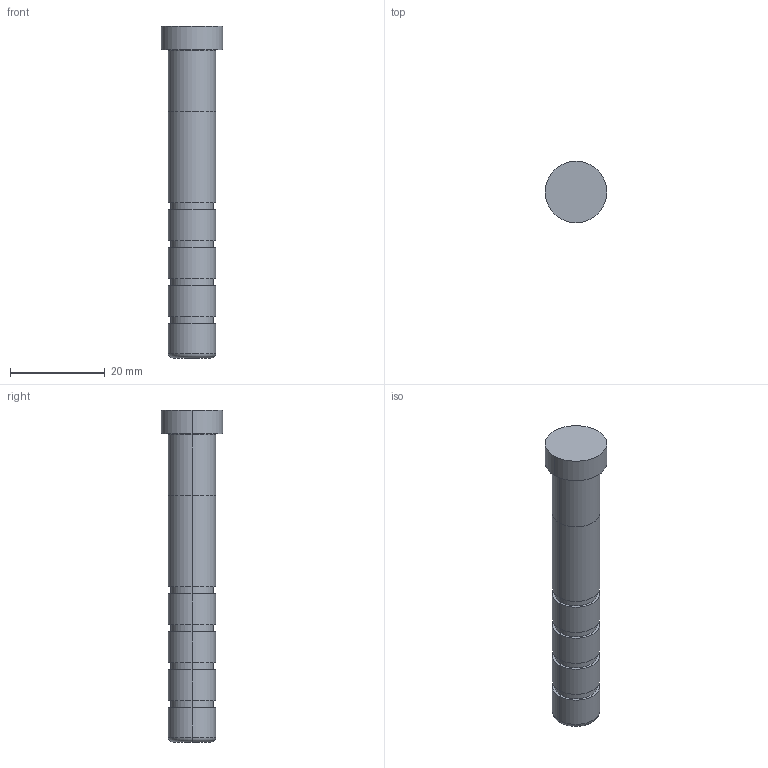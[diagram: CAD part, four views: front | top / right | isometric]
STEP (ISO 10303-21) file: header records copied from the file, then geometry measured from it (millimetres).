
FILE_DESCRIPTION(/* description */ (''),/* implementation_level */ '2;1');
FILE_NAME(/* name */ '3d_sgoh10-70_05219_r00.stp',/* time_stamp */ '2011-01-10T14:11:10+09:00',/* author */ ('MISUMI'),/* organization */ (''),/* preprocessor_version */ 'ST-DEVELOPER v11',/* originating_system */ 'UGS - NX 5.0',/* authorisation */ '');
FILE_SCHEMA (('CONFIG_CONTROL_DESIGN'));
Length unit declared in the file: millimetre
Products named in the file (1): 3d_sgoh10-70_05219_r00
Bounding box: 13 x 13 x 70 mm (x, y, z)
Volume: 5673.2 mm3; surface area: 2595 mm2
Topology: 1 solids, 1 shells, 37 faces, 72 edges, 46 vertices
Faces by surface type: cylinder 22, plane 11, torus 4
Entity records: 1054 total; most frequent: DIRECTION 198, CARTESIAN_POINT 156, ORIENTED_EDGE 144, AXIS2_PLACEMENT_3D 88, EDGE_CURVE 72, CIRCLE 50, EDGE_LOOP 46, VERTEX_POINT 46
